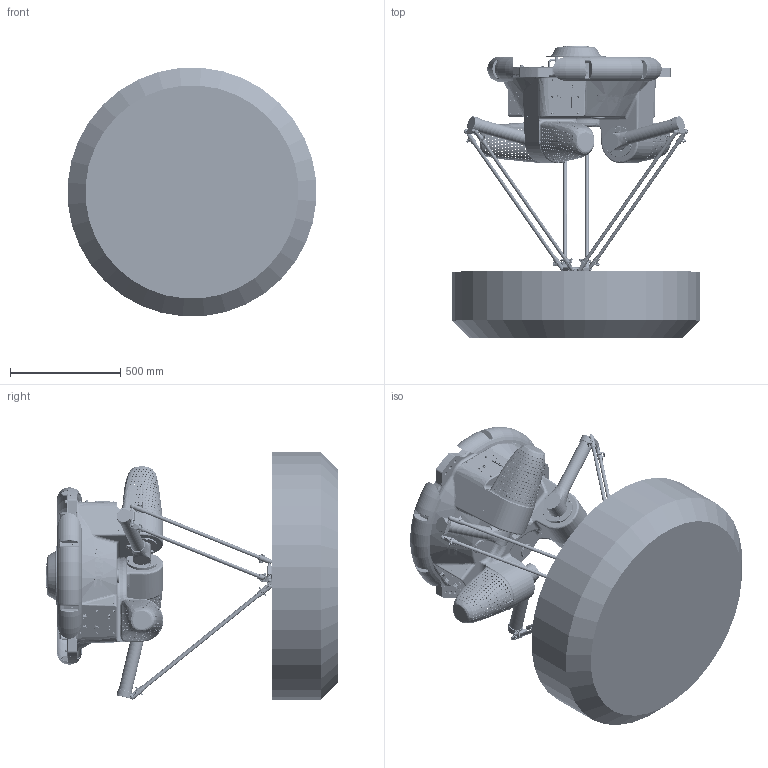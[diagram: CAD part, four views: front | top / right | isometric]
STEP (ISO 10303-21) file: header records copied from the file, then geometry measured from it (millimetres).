
FILE_DESCRIPTION (( 'STEP AP203' ), '1' );
FILE_NAME ('AP8X-1130-1653-V1.0.0.STEP', '2022-09-08T10:02:32', ( '' ), ( '' ), 'SwSTEP 2.0', 'SolidWorks 2017', '' );
FILE_SCHEMA (( 'CONFIG_CONTROL_DESIGN' ));
Products named in the file (6): AP8X-1130-1653-T2-V1.0.0; AP8X-1130-1653-T3-V1.0.0; AP8X-1130-1653-T4-V1.0.0; AP8X-1130-1653-T5-V1.0.0; AP8X-1130-1653-V1.0.0; AP8X-1130-1653-T1-V1.0.0
Assembly tree (12 placements, depth 2):
  AP8X-1130-1653-V1.0.0
    AP8X-1130-1653-T1-V1.0.0
    AP8X-1130-1653-T2-V1.0.0
    AP8X-1130-1653-T3-V1.0.0  x3
    AP8X-1130-1653-T4-V1.0.0  x6
    AP8X-1130-1653-T5-V1.0.0
Bounding box: 1126.88 x 1322.2 x 1126.88 mm (x, y, z)
Volume: 292782356.3 mm3; surface area: 9285364.7 mm2
Topology: 128 solids, 469 shells, 19492 faces, 49709 edges, 30964 vertices
Faces by surface type: cylinder 8199, plane 5222, bspline 2354, cone 1966, torus 1427, sphere 324
Entity records: 828767 total; most frequent: CARTESIAN_POINT 460099, ORIENTED_EDGE 81475, DIRECTION 65648, EDGE_CURVE 40903, VERTEX_POINT 26194, AXIS2_PLACEMENT_3D 24495, EDGE_LOOP 20187, LINE 16658
